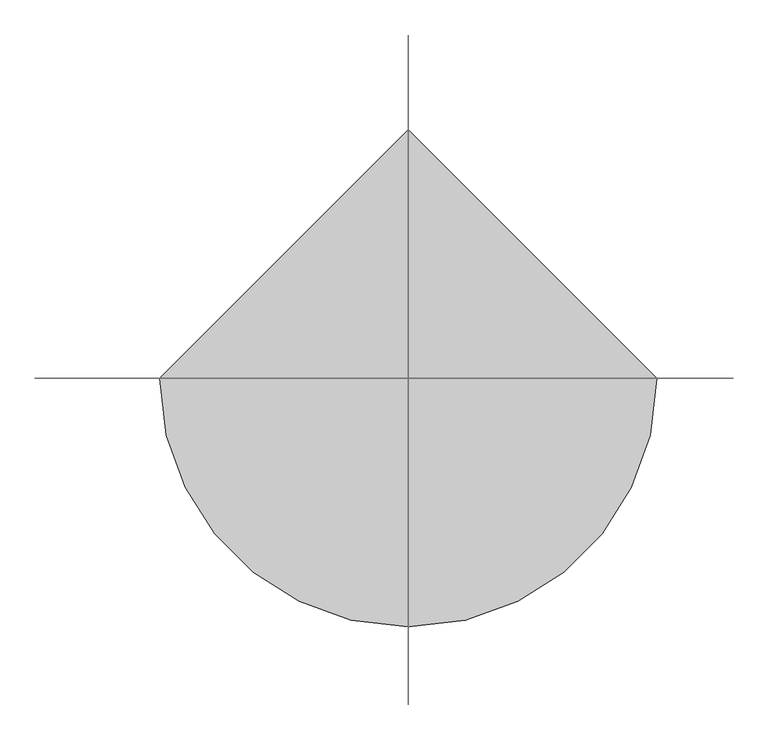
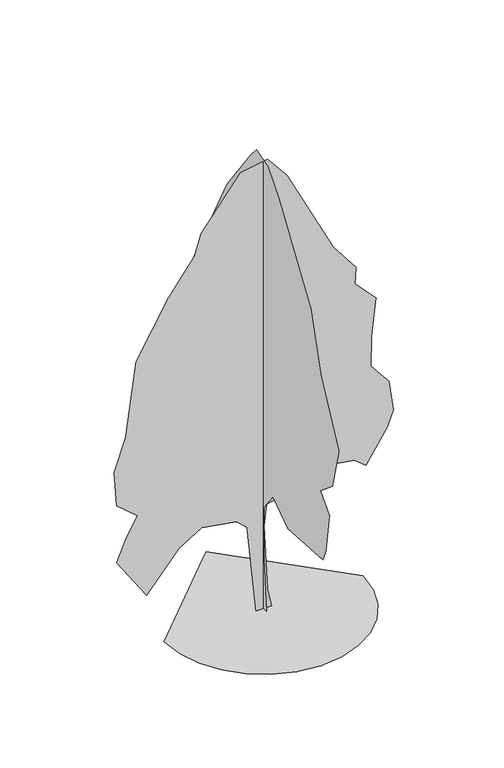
"""IFC4 building model written with IfcOpenShell, lengths in millimetres: geographic element geometry, RPC Árbol - Otoño : Fresno blanco - 9,1 metros."""

from ifc_helpers import new_model, si_unit, origin, place, context, project, spatial, triangles, source, transform, mapped, element, save


def geographic_element_351dbac9(model_context):
    return source(origin(), model_context, "Body", "Tessellation", [
        triangles([(-1893.9541626, 0.0, 0.0), (-1843.883963, -433.9692232, 0.0), (-1701.286853, -832.5015106, 0.0), (-1477.5757988, -1184.1763384, 0.0), (-1184.1763384, -1477.5757988, 0.0), (-832.4989672, -1701.2842369, 0.0), (-433.9692232, -1843.883963, 0.0), (8.28e-05, -1893.9541626, 0.0), (433.9692232, -1843.883963, 0.0), (832.5015106, -1701.286853, 0.0), (1184.1763384, -1477.5757988, 0.0), (1477.5757988, -1184.1763384, 0.0), (1701.2842369, -832.4989672, 0.0), (1843.883963, -433.9692232, 0.0), (1893.9541626, 0.0001656, 0.0), (-0.0002484, 1893.9541626, 0.0), (-6.4e-06, -107.405617, 0.0610504), (2.9e-05, -19.0626196, 1011.1043444), (6e-05, -22.354295, 2058.5176643), (5.36e-05, -324.0361078, 2446.4105576), (1.44e-05, -803.7126429, 2090.5193447), (-5.24e-05, -1968.4578999, 2177.5508057), (-5.06e-05, -2057.0642647, 2415.463028), (-3.49e-05, -2180.852203, 3189.1480705), (-7.7e-06, -1886.8561947, 3514.0689354), (-2.11e-05, -2273.6924664, 3839.0150894), (-9.1e-06, -2490.320668, 4674.5978073), (6.1e-05, -1902.3312675, 5850.571376), (0.0001148, -1565.3352676, 6981.854068), (0.0002247, -509.7166709, 8558.4305099), (0.0002588, -153.8275291, 8991.6918549), (0.0002851, 233.0097236, 9100.0073364), (0.0002899, 431.8357779, 8863.6345551), (0.0003049, 1207.8389202, 7815.7182861), (0.0003072, 2229.0898109, 5849.4086563), (0.0003043, 2564.2809792, 5082.1264206), (0.0002837, 2615.9234665, 4287.7464203), (0.0002662, 2461.1930855, 4009.235804), (0.0002339, 2383.8252789, 3080.8328796), (0.0002309, 2543.1738373, 2663.04123), (0.0001956, 2105.3018726, 2353.5702942), (0.0001818, 2167.1970772, 1765.5784229), (0.0001537, 1910.6045998, 1334.8775322), (0.0001348, 1718.465601, 1084.7435995), (9.33e-05, 697.2147829, 1734.630748), (8.96e-05, 511.5341472, 1982.2066246), (7.6e-05, 343.775528, 1862.5945942), (4.64e-05, 162.2824455, 1233.2683273), (5.8e-06, 97.5053129, 0.061075), (-139.0508875, 6.1e-06, 0.0679599), (-309.0109712, -0.0001945, 1745.2398388), (-508.0584509, -0.0002079, 1930.5286743), (-1178.8806587, -0.0001918, 2041.0027451), (-1610.7417984, -0.0001412, 1775.3305893), (-2227.9699665, -2.82e-05, 1053.8036276), (-2800.5020256, -0.0001047, 1904.8463757), (-2599.3413391, -0.0001688, 2369.0504539), (-2398.1805073, -0.0002182, 2709.4764771), (-2800.5020256, -0.0002412, 3049.892617), (-2846.9119835, -0.0003203, 3730.724897), (-2630.281311, -0.0004054, 4365.1219299), (-2429.1255661, -0.0005876, 5819.6314041), (-1808.7477356, -0.0007428, 6894.3425491), (-1315.0370281, -0.0008429, 7552.6773651), (-1191.2465464, -0.0008981, 7970.4437256), (-433.0466051, -0.0010456, 8929.811911), (77.5778138, -0.001079, 9022.6574066), (448.9412745, -0.0010417, 8573.9254944), (1337.319389, -0.0008703, 6809.9401428), (1763.2654827, -0.0008233, 6260.1731186), (1748.713028, -0.0007831, 5927.9468857), (2147.3033787, -0.0007511, 5513.2396408), (2062.4634991, -0.0006573, 4757.5596039), (2046.4829338, -0.0005858, 4163.5819061), (2388.021389, -0.000551, 3746.194883), (2475.967765, -0.0004829, 3142.7128235), (2367.6525742, -0.0004412, 2833.2619446), (1952.0779404, -0.0003475, 2198.842384), (1733.2404259, -0.00036, 2384.5229107), (1098.8284229, -0.0003436, 2479.7695679), (634.6218739, -0.0003102, 2369.0504539), (351.3614021, -0.0002721, 2153.5825012), (54.1728471, -0.0002508, 2083.9294853), (14.2947715, -0.0001993, 1666.2138485), (82.1546147, -4.65e-05, 360.0342012), (151.794441, -6.6e-06, 0.0679472)], [[15, 16, 1], [14, 15, 1], [14, 1, 2], [13, 14, 2], [13, 2, 3], [13, 3, 4], [12, 13, 4], [11, 12, 4], [11, 4, 5], [11, 5, 6], [11, 6, 7], [11, 7, 8], [11, 8, 9], [11, 9, 10], [48, 49, 17], [48, 17, 18], [48, 18, 19], [47, 48, 19], [43, 44, 45], [42, 43, 45], [41, 42, 45], [41, 45, 46], [39, 40, 41], [31, 32, 33], [21, 22, 23], [21, 23, 24], [21, 24, 25], [20, 21, 25], [46, 47, 19], [30, 31, 33], [30, 33, 34], [29, 30, 34], [29, 34, 35], [28, 29, 35], [28, 35, 36], [28, 36, 37], [28, 37, 38], [27, 28, 38], [26, 27, 38], [25, 26, 38], [20, 25, 38], [20, 38, 39], [20, 39, 41], [20, 41, 46], [20, 46, 19], [85, 86, 50], [85, 50, 51], [84, 85, 51], [54, 55, 56], [54, 56, 57], [77, 78, 79], [83, 84, 51], [83, 51, 52], [54, 57, 58], [53, 54, 58], [66, 67, 68], [65, 66, 68], [65, 68, 69], [64, 65, 69], [63, 64, 69], [62, 63, 69], [61, 62, 69], [61, 69, 70], [61, 70, 71], [61, 71, 72], [61, 72, 73], [61, 73, 74], [60, 61, 74], [59, 60, 74], [58, 59, 74], [53, 58, 74], [52, 53, 74], [83, 52, 74], [82, 83, 74], [81, 82, 74], [80, 81, 74], [80, 74, 75], [79, 80, 75], [77, 79, 75], [77, 75, 76]], closed=False),
    ])


if __name__ == "__main__":
    model = new_model("IFC4")
    model_context = context("Model", 3, world=origin())
    ifc_project = project(units=[si_unit("LENGTHUNIT", "METRE", prefix="MILLI")], contexts=[model_context])
    site = spatial("IfcSite", under=ifc_project)
    building = spatial("IfcBuilding", under=site)
    placement = place(None, origin())
    geographic_element_shape = geographic_element_351dbac9(model_context)
    element("IfcGeographicElement", 1, ObjectType="RPC Árbol - Otoño : Fresno blanco - 9,1 metros", at=placement, inside=building, context=model_context, shape_type="MappedRepresentation", body=[
        mapped(geographic_element_shape, transform((0.0, 0.0, 0.0), x_axis=(1.0, 0.0, 0.0), y_axis=(0.0, 1.0, 0.0), z_axis=(0.0, 0.0, 1.0))),
    ])
    save(model, "model.ifc")
